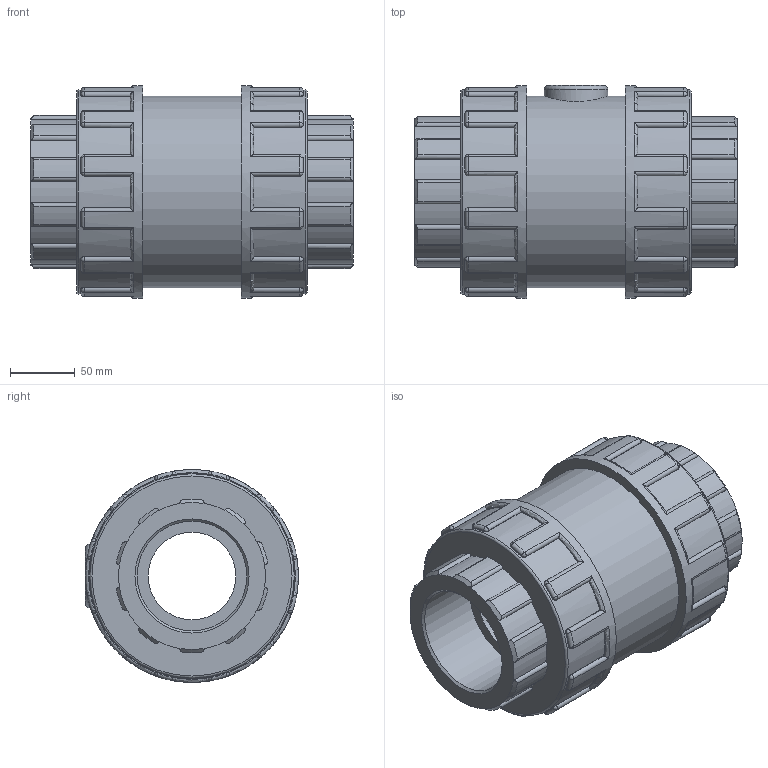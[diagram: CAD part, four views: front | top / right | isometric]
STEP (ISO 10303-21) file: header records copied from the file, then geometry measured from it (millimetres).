
FILE_DESCRIPTION(/* description */ ('PLASSON CHECK VALVE THR 3" PTFE COATED SPRING + EPDM O-RING'),/* implementation_level */ '2;1');
FILE_NAME(/* name */ 'C:\Dropbox\KIMPROJECTS-Inventor\99-16-3568-Processing\PVC Catalog 2017\110810 - 110610 110910 - 110010\11081030.ipt.stp',/* time_stamp */ '2017-12-07T16:08:18+02:00',/* author */ ('KIM'),/* organization */ (''),/* preprocessor_version */ 'ST-DEVELOPER v15.6',/* originating_system */ 'Autodesk Inventor 2015',/* authorisation */ '');
FILE_SCHEMA (('AUTOMOTIVE_DESIGN { 1 0 10303 214 3 1 1 }'));
Length unit declared in the file: millimetre
Products named in the file (1): 11081030
Bounding box: 250 x 165 x 165 mm (x, y, z)
Volume: 3075524.9 mm3; surface area: 220474.3 mm2
Topology: 1 solids, 1 shells, 411 faces, 1021 edges, 618 vertices
Faces by surface type: cylinder 185, plane 105, torus 51, sphere 48, cone 22
Full cylindrical faces by diameter (mm): 49.5 x1, 67.941 x1, 84.926 x2, 148.5 x1, 158.4 x2, 165 x2
Entity records: 13410 total; most frequent: CARTESIAN_POINT 3631, DIRECTION 2180, ORIENTED_EDGE 1998, EDGE_CURVE 999, AXIS2_PLACEMENT_3D 906, VERTEX_POINT 611, CIRCLE 494, EDGE_LOOP 434
